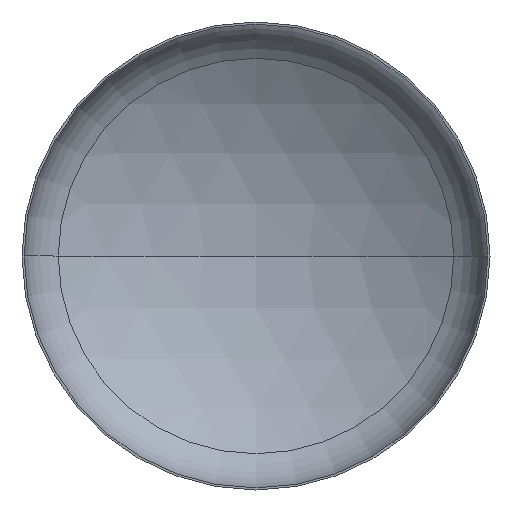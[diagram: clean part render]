
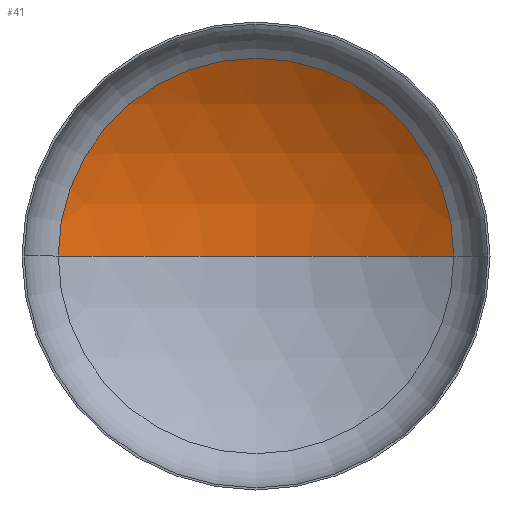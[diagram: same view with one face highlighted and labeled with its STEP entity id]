
A CAD part, front view. The second image highlights one B-rep face of the part: STEP entity #41.
In plain terms, the highlighted spherical face has radius 880 mm.
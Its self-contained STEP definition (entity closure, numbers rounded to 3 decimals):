
#8 = CARTESIAN_POINT ( 'NONE',  ( 0., -582.889, 0. ) ) ;
#37 = EDGE_LOOP ( 'NONE', ( #75, #396, #392 ) ) ;
#41 = ADVANCED_FACE ( 'NONE', ( #384 ), #207, .F. ) ;
#47 = DIRECTION ( 'NONE',  ( -1., 0., 0. ) ) ;
#54 = VERTEX_POINT ( 'NONE', #232 ) ;
#63 = DIRECTION ( 'NONE',  ( 1., 0., 0. ) ) ;
#75 = ORIENTED_EDGE ( 'NONE', *, *, #199, .F. ) ;
#79 = CARTESIAN_POINT ( 'NONE',  ( 0., -582.889, 0. ) ) ;
#91 = AXIS2_PLACEMENT_3D ( 'NONE', #79, #350, #149 ) ;
#92 = AXIS2_PLACEMENT_3D ( 'NONE', #8, #387, #47 ) ;
#97 = AXIS2_PLACEMENT_3D ( 'NONE', #389, #330, #63 ) ;
#148 = AXIS2_PLACEMENT_3D ( 'NONE', #280, #276, #257 ) ;
#149 = DIRECTION ( 'NONE',  ( 1., 0., 0. ) ) ;
#159 = VERTEX_POINT ( 'NONE', #318 ) ;
#189 = EDGE_CURVE ( 'NONE', #235, #54, #270, .T. ) ;
#196 = EDGE_CURVE ( 'NONE', #159, #235, #362, .T. ) ;
#199 = EDGE_CURVE ( 'NONE', #159, #54, #317, .T. ) ;
#207 = SPHERICAL_SURFACE ( 'NONE', #148, 880. ) ;
#232 = CARTESIAN_POINT ( 'NONE',  ( -464.789, 164.354, 0. ) ) ;
#235 = VERTEX_POINT ( 'NONE', #273 ) ;
#257 = DIRECTION ( 'NONE',  ( -1., 0., 0. ) ) ;
#270 = CIRCLE ( 'NONE', #97, 464.789 ) ;
#273 = CARTESIAN_POINT ( 'NONE',  ( 464.789, 164.354, 0. ) ) ;
#276 = DIRECTION ( 'NONE',  ( 0., 0., -1. ) ) ;
#280 = CARTESIAN_POINT ( 'NONE',  ( 0., -582.889, 0. ) ) ;
#317 = CIRCLE ( 'NONE', #91, 880. ) ;
#318 = CARTESIAN_POINT ( 'NONE',  ( 0., 297.111, 0. ) ) ;
#330 = DIRECTION ( 'NONE',  ( 0., -1., 0. ) ) ;
#350 = DIRECTION ( 'NONE',  ( 0., 0., 1. ) ) ;
#362 = CIRCLE ( 'NONE', #92, 880. ) ;
#384 = FACE_OUTER_BOUND ( 'NONE', #37, .T. ) ;
#387 = DIRECTION ( 'NONE',  ( 0., 0., -1. ) ) ;
#389 = CARTESIAN_POINT ( 'NONE',  ( 0., 164.354, 0. ) ) ;
#392 = ORIENTED_EDGE ( 'NONE', *, *, #189, .T. ) ;
#396 = ORIENTED_EDGE ( 'NONE', *, *, #196, .T. ) ;
